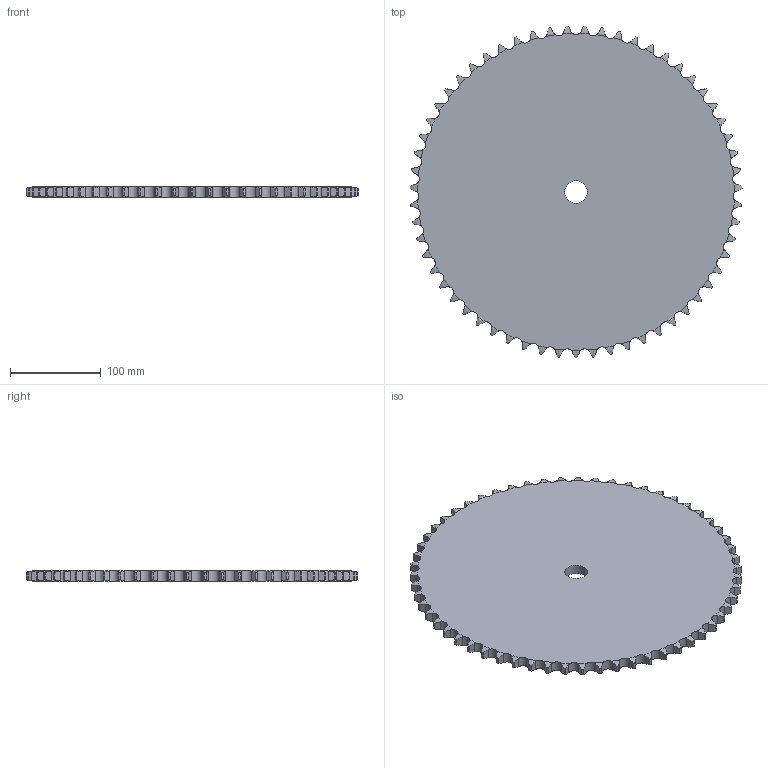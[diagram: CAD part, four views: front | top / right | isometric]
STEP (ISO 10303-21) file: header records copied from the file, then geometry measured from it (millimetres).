
FILE_DESCRIPTION((''),'2;1');
FILE_NAME('500-401-0059_PRT','2021-02-12T',('Brieden'),('Brieden'),'PRO/ENGINEER BY PARAMETRIC TECHNOLOGY CORPORATION, 2010160','PRO/ENGINEER BY PARAMETRIC TECHNOLOGY CORPORATION, 2010160','');
FILE_SCHEMA(('AUTOMOTIVE_DESIGN { 1 0 10303 214 1 1 1 1 }'));
Length unit declared in the file: millimetre
Products named in the file (1): 500-401-0059_PRT
Bounding box: 365.35 x 365.22 x 11.1 mm (x, y, z)
Volume: 1079938.1 mm3; surface area: 213662.5 mm2
Topology: 1 solids, 1 shells, 358 faces, 1068 edges, 712 vertices
Faces by surface type: cylinder 238, torus 118, plane 2
Entity records: 17768 total; most frequent: CARTESIAN_POINT 5445, ORIENTED_EDGE 2136, DIRECTION 1670, PRESENTATION_STYLE_ASSIGNMENT 1069, STYLED_ITEM 1069, CURVE_STYLE 1068, EDGE_CURVE 1068, AXIS2_PLACEMENT_3D 716
